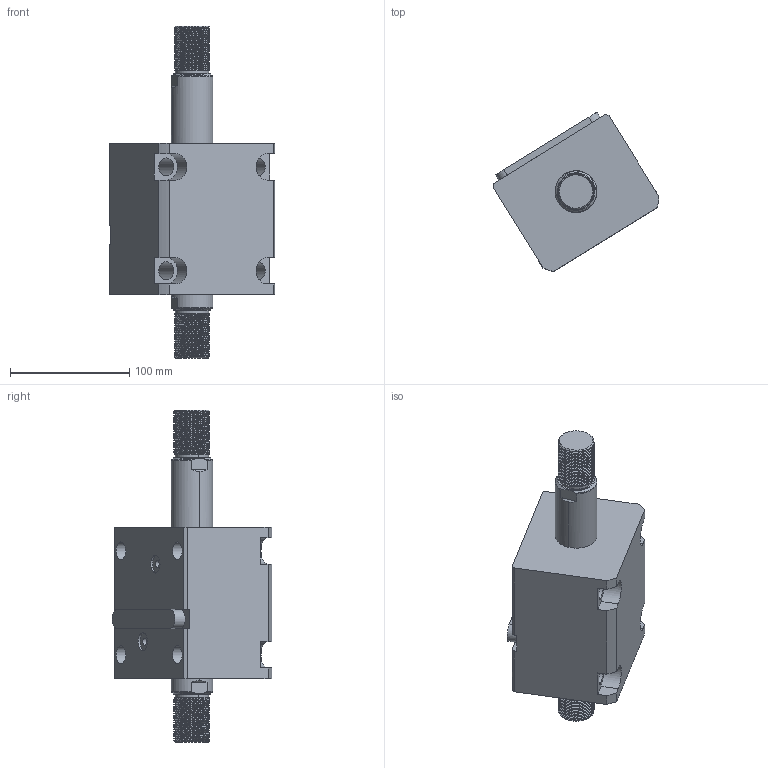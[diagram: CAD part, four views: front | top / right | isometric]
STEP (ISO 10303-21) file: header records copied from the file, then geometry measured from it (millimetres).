
FILE_DESCRIPTION (( 'STEP AP214' ), '1' );
FILE_NAME ('chtb-lwm63x45w_asm.STEP', '2018-05-22T01:30:38', ( 'Windows' ), ( 'Microsoft' ), 'SwSTEP 2.0', 'SolidWorks 2015', '' );
FILE_SCHEMA (( 'AUTOMOTIVE_DESIGN' ));
Length unit declared in the file: millimetre
Products named in the file (5): CHTB-SW63X45WHSG; CHTB-LWM63X45NBT; CHTB-LA63PJ; CHTB-63QG; chtb-lwm63x45w_asm
Assembly tree (4 placements, depth 2):
  chtb-lwm63x45w_asm
    CHTB-63QG
    CHTB-LA63PJ
    CHTB-LWM63X45NBT
    CHTB-SW63X45WHSG
Bounding box: 138.78 x 133.56 x 278 mm (x, y, z)
Volume: 1236138.9 mm3; surface area: 176185.8 mm2
Topology: 4 solids, 4 shells, 298 faces, 869 edges, 587 vertices
Faces by surface type: cylinder 203, plane 55, bspline 16, cone 12, torus 12
Entity records: 27660 total; most frequent: CARTESIAN_POINT 20506, ORIENTED_EDGE 1730, DIRECTION 1186, EDGE_CURVE 865, VERTEX_POINT 587, AXIS2_PLACEMENT_3D 440, EDGE_LOOP 326, VECTOR 306
